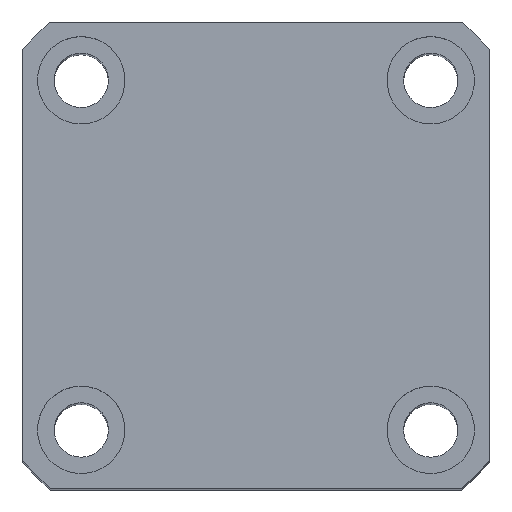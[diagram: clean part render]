
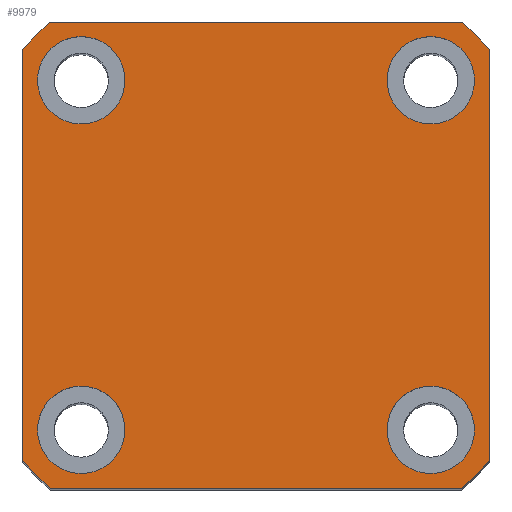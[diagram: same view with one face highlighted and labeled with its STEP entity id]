
A CAD part, top view. The second image highlights one B-rep face of the part: STEP entity #9979.
In plain terms, the highlighted planar face has unit normal (0, 0, 1) as drawn and (1, 0, 0) by its records, which use the part's own axes.
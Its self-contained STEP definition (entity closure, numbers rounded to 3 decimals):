
#21 = CARTESIAN_POINT ( 'NONE',  ( 110., -18., -18. ) ) ;
#136 = EDGE_CURVE ( 'NONE', #10634, #5441, #5454, .T. ) ;
#138 = CARTESIAN_POINT ( 'NONE',  ( 110., 24., -24. ) ) ;
#146 = CARTESIAN_POINT ( 'NONE',  ( 110., 18., 18. ) ) ;
#155 = DIRECTION ( 'NONE',  ( 0., 0., -1. ) ) ;
#164 = PLANE ( 'NONE',  #4407 ) ;
#252 = DIRECTION ( 'NONE',  ( 1., 0., 0. ) ) ;
#373 = CIRCLE ( 'NONE', #6092, 32. ) ;
#432 = AXIS2_PLACEMENT_3D ( 'NONE', #4503, #3553, #9140 ) ;
#500 = CIRCLE ( 'NONE', #2793, 4.5 ) ;
#684 = DIRECTION ( 'NONE',  ( 0., 0., -1. ) ) ;
#755 = AXIS2_PLACEMENT_3D ( 'NONE', #1412, #6994, #7531 ) ;
#813 = DIRECTION ( 'NONE',  ( 1., 0., 0. ) ) ;
#867 = CARTESIAN_POINT ( 'NONE',  ( 110., 18., 13.5 ) ) ;
#887 = DIRECTION ( 'NONE',  ( 0., 0., -1. ) ) ;
#949 = CARTESIAN_POINT ( 'NONE',  ( 110., 0., 0. ) ) ;
#1042 = DIRECTION ( 'NONE',  ( 0., 0., -1. ) ) ;
#1108 = EDGE_CURVE ( 'NONE', #6469, #10775, #5827, .T. ) ;
#1158 = FACE_OUTER_BOUND ( 'NONE', #7367, .T. ) ;
#1253 = CARTESIAN_POINT ( 'NONE',  ( 110., -18., 13.5 ) ) ;
#1270 = CARTESIAN_POINT ( 'NONE',  ( 110., 24., -21.166 ) ) ;
#1281 = CARTESIAN_POINT ( 'NONE',  ( 110., -18., -13.5 ) ) ;
#1337 = VERTEX_POINT ( 'NONE', #1270 ) ;
#1412 = CARTESIAN_POINT ( 'NONE',  ( 110., -18., 18. ) ) ;
#1639 = VERTEX_POINT ( 'NONE', #2110 ) ;
#1731 = CARTESIAN_POINT ( 'NONE',  ( 110., 24., 24. ) ) ;
#1751 = EDGE_CURVE ( 'NONE', #4718, #2575, #7501, .T. ) ;
#1820 = DIRECTION ( 'NONE',  ( 0., 0., -1. ) ) ;
#2110 = CARTESIAN_POINT ( 'NONE',  ( 110., 18., 22.5 ) ) ;
#2117 = ORIENTED_EDGE ( 'NONE', *, *, #6826, .F. ) ;
#2137 = CARTESIAN_POINT ( 'NONE',  ( 110., 0., 0. ) ) ;
#2234 = CIRCLE ( 'NONE', #5652, 4.5 ) ;
#2302 = AXIS2_PLACEMENT_3D ( 'NONE', #9164, #4261, #9978 ) ;
#2492 = VERTEX_POINT ( 'NONE', #10088 ) ;
#2498 = DIRECTION ( 'NONE',  ( 0., 0., -1. ) ) ;
#2512 = DIRECTION ( 'NONE',  ( 1., 0., 0. ) ) ;
#2523 = CARTESIAN_POINT ( 'NONE',  ( 110., -18., -18. ) ) ;
#2575 = VERTEX_POINT ( 'NONE', #10199 ) ;
#2598 = EDGE_CURVE ( 'NONE', #7878, #4499, #8501, .T. ) ;
#2606 = CARTESIAN_POINT ( 'NONE',  ( 110., -24., 24. ) ) ;
#2636 = ORIENTED_EDGE ( 'NONE', *, *, #2665, .F. ) ;
#2646 = DIRECTION ( 'NONE',  ( 0., 0., -1. ) ) ;
#2665 = EDGE_CURVE ( 'NONE', #4499, #7878, #4116, .T. ) ;
#2769 = CARTESIAN_POINT ( 'NONE',  ( 110., 18., -22.5 ) ) ;
#2793 = AXIS2_PLACEMENT_3D ( 'NONE', #10628, #5781, #684 ) ;
#2882 = ORIENTED_EDGE ( 'NONE', *, *, #7020, .F. ) ;
#2943 = VERTEX_POINT ( 'NONE', #867 ) ;
#2950 = DIRECTION ( 'NONE',  ( 0., 0., -1. ) ) ;
#2972 = EDGE_LOOP ( 'NONE', ( #8974, #6872 ) ) ;
#3088 = CARTESIAN_POINT ( 'NONE',  ( 110., 18., -18. ) ) ;
#3103 = CIRCLE ( 'NONE', #7038, 32. ) ;
#3120 = VECTOR ( 'NONE', #7063, 1000. ) ;
#3137 = DIRECTION ( 'NONE',  ( 0., 0., -1. ) ) ;
#3140 = DIRECTION ( 'NONE',  ( 1., 0., 0. ) ) ;
#3235 = CARTESIAN_POINT ( 'NONE',  ( 110., -18., 18. ) ) ;
#3247 = CARTESIAN_POINT ( 'NONE',  ( 110., 21.166, -24. ) ) ;
#3280 = ORIENTED_EDGE ( 'NONE', *, *, #5635, .T. ) ;
#3382 = FACE_BOUND ( 'NONE', #2972, .T. ) ;
#3420 = EDGE_CURVE ( 'NONE', #2943, #1639, #3713, .T. ) ;
#3553 = DIRECTION ( 'NONE',  ( 1., 0., 0. ) ) ;
#3682 = CARTESIAN_POINT ( 'NONE',  ( 110., 18., -13.5 ) ) ;
#3713 = CIRCLE ( 'NONE', #7319, 4.5 ) ;
#3849 = ORIENTED_EDGE ( 'NONE', *, *, #6269, .T. ) ;
#3953 = VECTOR ( 'NONE', #5239, 1000. ) ;
#3977 = DIRECTION ( 'NONE',  ( 0., 0., -1. ) ) ;
#4088 = CARTESIAN_POINT ( 'NONE',  ( 110., -21.166, 24. ) ) ;
#4106 = ORIENTED_EDGE ( 'NONE', *, *, #7279, .T. ) ;
#4116 = CIRCLE ( 'NONE', #755, 4.5 ) ;
#4206 = DIRECTION ( 'NONE',  ( 0., -1., 0. ) ) ;
#4261 = DIRECTION ( 'NONE',  ( 1., 0., 0. ) ) ;
#4391 = ORIENTED_EDGE ( 'NONE', *, *, #3420, .F. ) ;
#4407 = AXIS2_PLACEMENT_3D ( 'NONE', #8435, #6122, #1042 ) ;
#4499 = VERTEX_POINT ( 'NONE', #5664 ) ;
#4503 = CARTESIAN_POINT ( 'NONE',  ( 110., 18., -18. ) ) ;
#4504 = CIRCLE ( 'NONE', #2302, 32. ) ;
#4718 = VERTEX_POINT ( 'NONE', #10536 ) ;
#4869 = CARTESIAN_POINT ( 'NONE',  ( 110., 21.166, 24. ) ) ;
#4905 = ORIENTED_EDGE ( 'NONE', *, *, #2598, .F. ) ;
#5183 = ORIENTED_EDGE ( 'NONE', *, *, #1108, .F. ) ;
#5239 = DIRECTION ( 'NONE',  ( 0., 1., 0. ) ) ;
#5413 = CARTESIAN_POINT ( 'NONE',  ( 110., 24., 24. ) ) ;
#5441 = VERTEX_POINT ( 'NONE', #2769 ) ;
#5454 = CIRCLE ( 'NONE', #432, 4.5 ) ;
#5516 = EDGE_CURVE ( 'NONE', #6422, #1337, #4504, .T. ) ;
#5564 = ORIENTED_EDGE ( 'NONE', *, *, #1751, .T. ) ;
#5635 = EDGE_CURVE ( 'NONE', #2575, #2492, #8343, .T. ) ;
#5647 = FACE_BOUND ( 'NONE', #8683, .T. ) ;
#5652 = AXIS2_PLACEMENT_3D ( 'NONE', #21, #5973, #887 ) ;
#5664 = CARTESIAN_POINT ( 'NONE',  ( 110., -18., 22.5 ) ) ;
#5717 = AXIS2_PLACEMENT_3D ( 'NONE', #949, #6856, #1820 ) ;
#5781 = DIRECTION ( 'NONE',  ( 1., 0., 0. ) ) ;
#5820 = ORIENTED_EDGE ( 'NONE', *, *, #9472, .T. ) ;
#5827 = CIRCLE ( 'NONE', #8033, 4.5 ) ;
#5901 = CARTESIAN_POINT ( 'NONE',  ( 110., 0., 0. ) ) ;
#5949 = LINE ( 'NONE', #138, #3953 ) ;
#5973 = DIRECTION ( 'NONE',  ( 1., 0., 0. ) ) ;
#6075 = EDGE_CURVE ( 'NONE', #5441, #10634, #7611, .T. ) ;
#6092 = AXIS2_PLACEMENT_3D ( 'NONE', #5901, #813, #6733 ) ;
#6103 = ORIENTED_EDGE ( 'NONE', *, *, #6229, .T. ) ;
#6122 = DIRECTION ( 'NONE',  ( 1., 0., 0. ) ) ;
#6160 = VERTEX_POINT ( 'NONE', #4088 ) ;
#6229 = EDGE_CURVE ( 'NONE', #8045, #9601, #373, .T. ) ;
#6269 = EDGE_CURVE ( 'NONE', #9601, #6160, #6863, .T. ) ;
#6351 = ORIENTED_EDGE ( 'NONE', *, *, #5516, .T. ) ;
#6362 = EDGE_LOOP ( 'NONE', ( #4391, #2117 ) ) ;
#6422 = VERTEX_POINT ( 'NONE', #3247 ) ;
#6469 = VERTEX_POINT ( 'NONE', #8306 ) ;
#6733 = DIRECTION ( 'NONE',  ( 0., 0., -1. ) ) ;
#6826 = EDGE_CURVE ( 'NONE', #1639, #2943, #500, .T. ) ;
#6842 = AXIS2_PLACEMENT_3D ( 'NONE', #3088, #8888, #3977 ) ;
#6856 = DIRECTION ( 'NONE',  ( 1., 0., 0. ) ) ;
#6863 = LINE ( 'NONE', #1731, #8728 ) ;
#6872 = ORIENTED_EDGE ( 'NONE', *, *, #136, .F. ) ;
#6994 = DIRECTION ( 'NONE',  ( 1., 0., 0. ) ) ;
#7007 = VECTOR ( 'NONE', #2646, 1000. ) ;
#7020 = EDGE_CURVE ( 'NONE', #10775, #6469, #2234, .T. ) ;
#7038 = AXIS2_PLACEMENT_3D ( 'NONE', #2137, #7969, #2950 ) ;
#7063 = DIRECTION ( 'NONE',  ( 0., 0., 1. ) ) ;
#7149 = EDGE_CURVE ( 'NONE', #2492, #6422, #5949, .T. ) ;
#7279 = EDGE_CURVE ( 'NONE', #1337, #8045, #9495, .T. ) ;
#7319 = AXIS2_PLACEMENT_3D ( 'NONE', #146, #252, #155 ) ;
#7367 = EDGE_LOOP ( 'NONE', ( #10632, #6351, #4106, #6103, #3849, #5820, #5564, #3280 ) ) ;
#7501 = LINE ( 'NONE', #2606, #7007 ) ;
#7531 = DIRECTION ( 'NONE',  ( 0., 0., -1. ) ) ;
#7611 = CIRCLE ( 'NONE', #6842, 4.5 ) ;
#7822 = FACE_BOUND ( 'NONE', #8763, .T. ) ;
#7878 = VERTEX_POINT ( 'NONE', #1253 ) ;
#7969 = DIRECTION ( 'NONE',  ( 1., 0., 0. ) ) ;
#8033 = AXIS2_PLACEMENT_3D ( 'NONE', #2523, #2512, #2498 ) ;
#8045 = VERTEX_POINT ( 'NONE', #10495 ) ;
#8306 = CARTESIAN_POINT ( 'NONE',  ( 110., -18., -22.5 ) ) ;
#8343 = CIRCLE ( 'NONE', #5717, 32. ) ;
#8435 = CARTESIAN_POINT ( 'NONE',  ( 110., 0., 0. ) ) ;
#8501 = CIRCLE ( 'NONE', #9890, 4.5 ) ;
#8683 = EDGE_LOOP ( 'NONE', ( #5183, #2882 ) ) ;
#8728 = VECTOR ( 'NONE', #4206, 1000. ) ;
#8763 = EDGE_LOOP ( 'NONE', ( #4905, #2636 ) ) ;
#8888 = DIRECTION ( 'NONE',  ( 1., 0., 0. ) ) ;
#8974 = ORIENTED_EDGE ( 'NONE', *, *, #6075, .F. ) ;
#9140 = DIRECTION ( 'NONE',  ( 0., 0., -1. ) ) ;
#9164 = CARTESIAN_POINT ( 'NONE',  ( 110., 0., 0. ) ) ;
#9472 = EDGE_CURVE ( 'NONE', #6160, #4718, #3103, .T. ) ;
#9495 = LINE ( 'NONE', #5413, #3120 ) ;
#9601 = VERTEX_POINT ( 'NONE', #4869 ) ;
#9890 = AXIS2_PLACEMENT_3D ( 'NONE', #3235, #3140, #3137 ) ;
#9965 = FACE_BOUND ( 'NONE', #6362, .T. ) ;
#9978 = DIRECTION ( 'NONE',  ( 0., 0., -1. ) ) ;
#9979 = ADVANCED_FACE ( 'NONE', ( #5647, #7822, #3382, #9965, #1158 ), #164, .T. ) ;
#10088 = CARTESIAN_POINT ( 'NONE',  ( 110., -21.166, -24. ) ) ;
#10199 = CARTESIAN_POINT ( 'NONE',  ( 110., -24., -21.166 ) ) ;
#10495 = CARTESIAN_POINT ( 'NONE',  ( 110., 24., 21.166 ) ) ;
#10536 = CARTESIAN_POINT ( 'NONE',  ( 110., -24., 21.166 ) ) ;
#10628 = CARTESIAN_POINT ( 'NONE',  ( 110., 18., 18. ) ) ;
#10632 = ORIENTED_EDGE ( 'NONE', *, *, #7149, .T. ) ;
#10634 = VERTEX_POINT ( 'NONE', #3682 ) ;
#10775 = VERTEX_POINT ( 'NONE', #1281 ) ;
